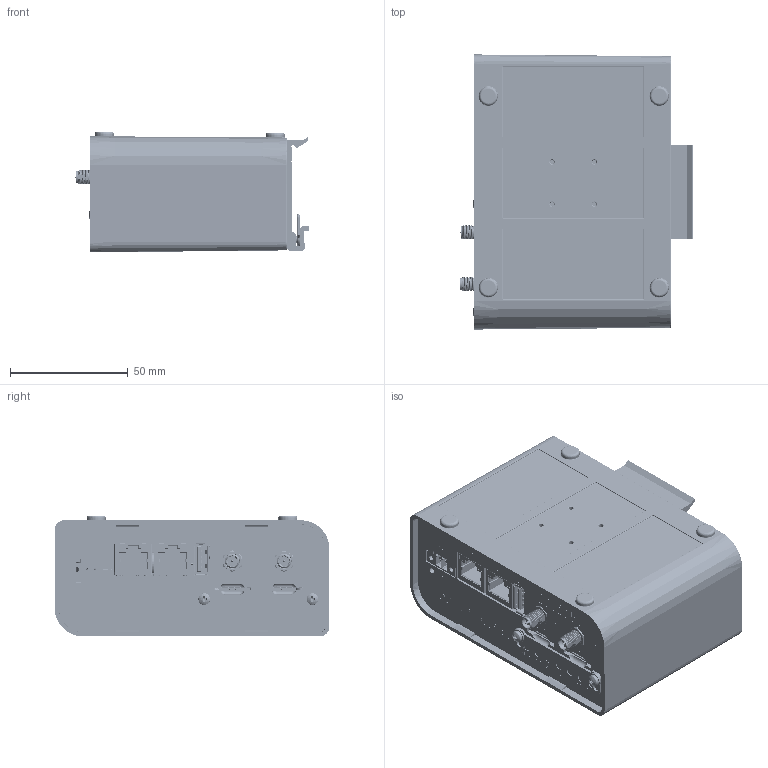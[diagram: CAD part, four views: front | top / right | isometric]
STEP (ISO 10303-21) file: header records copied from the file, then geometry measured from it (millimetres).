
FILE_DESCRIPTION (( 'STEP AP203' ), '1' );
FILE_NAME ('VMC-2021-26-1_Box ICR-2700 LIBRATUM - plastic.STEP', '2021-10-20T09:21:21', ( '' ), ( '' ), 'SwSTEP 2.0', 'SolidWorks 2021', '' );
FILE_SCHEMA (( 'CONFIG_CONTROL_DESIGN' ));
Length unit declared in the file: millimetre
Products named in the file (12): plain washer 10673 type snl_iso_ISO 10673-2.75-S; VMC-2016-55-1-01_CKD-SBD40 profil; ICR-2731_setava desek_upravená verze_v2-part; pan head cross recess screw_din_DIN EN ISO 7045 - M2.5 x 5 - Z - 5N; VMC-2021-26-1_Box ICR-2700 LIBRATUM - plastic; cross fh tapping 7976_din_Tapping screw DIN 7982-ST2.2x6.5-C-H-N; VMC-2021-08-1-02_ICR-2734 - SIM cover; VMC-2016-55-1-03_CKD-SBD40 pero; VMC-2021-26-1-02_ICR-2700 LIBRATUM - Plastic box; VMC-2016-55-1_CKD-SBD40 v2; VMC-2016-55-1-02_CKD-SBD40 kolik; VMC-2021-26-1-01_ICR-2700 LIBRATUM - front part
Assembly tree (16 placements, depth 3):
  VMC-2021-26-1_Box ICR-2700 LIBRATUM - plastic
    VMC-2021-26-1-01_ICR-2700 LIBRATUM - front part
    VMC-2021-08-1-02_ICR-2734 - SIM cover
    VMC-2021-26-1-02_ICR-2700 LIBRATUM - Plastic box
    ICR-2731_setava desek_upravená verze_v2-part
    VMC-2016-55-1_CKD-SBD40 v2
      VMC-2016-55-1-01_CKD-SBD40 profil
      VMC-2016-55-1-02_CKD-SBD40 kolik
      VMC-2016-55-1-03_CKD-SBD40 pero
    pan head cross recess screw_din_DIN EN ISO 7045 - M2.5 x 5 - Z - 5N  x2
    plain washer 10673 type snl_iso_ISO 10673-2.75-S  x2
    cross fh tapping 7976_din_Tapping screw DIN 7982-ST2.2x6.5-C-H-N  x4
Bounding box: 99.16 x 116.96 x 51.44 mm (x, y, z)
Volume: 15088.7 mm3; surface area: 133171.7 mm2
Topology: 13 solids, 1046 shells, 6841 faces, 26160 edges, 20125 vertices
Faces by surface type: plane 4947, cylinder 1016, bspline 606, cone 141, torus 109, sphere 22
Entity records: 324718 total; most frequent: CARTESIAN_POINT 117874, DIRECTION 38261, ORIENTED_EDGE 37833, EDGE_CURVE 25808, VERTEX_POINT 19923, LINE 18817, VECTOR 18817, AXIS2_PLACEMENT_3D 9722
